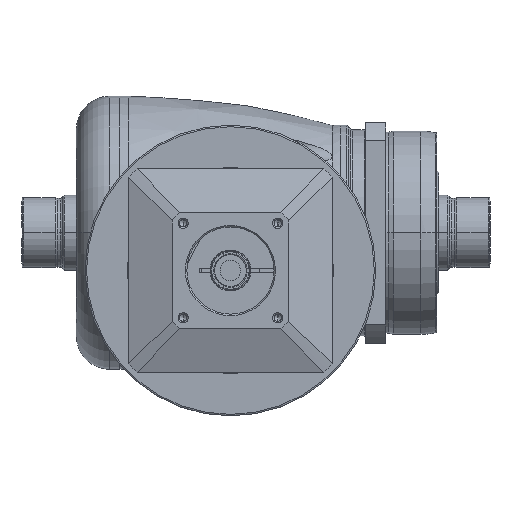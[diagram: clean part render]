
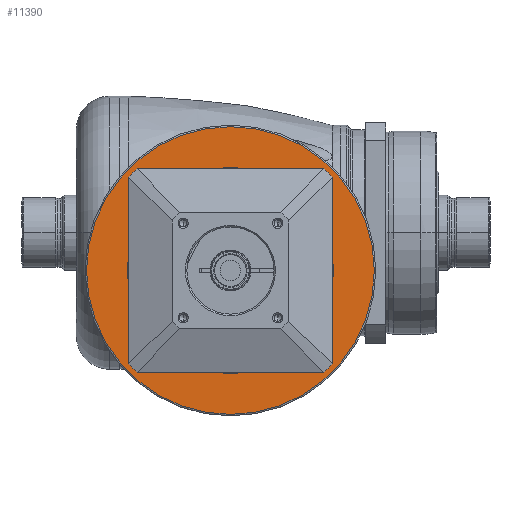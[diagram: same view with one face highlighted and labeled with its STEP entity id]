
A CAD part, front view. The second image highlights one B-rep face of the part: STEP entity #11390.
In plain terms, the highlighted planar face has unit normal (0, -1, 0) as drawn and (1, 0, 0) by its records, which use the part's own axes.
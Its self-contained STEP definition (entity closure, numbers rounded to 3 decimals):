
#10373=CARTESIAN_POINT('',(-9.,0.,0.));
#10374=DIRECTION('',(-1.,0.,0.));
#10375=DIRECTION('',(0.,-1.,0.));
#10376=AXIS2_PLACEMENT_3D('',#10373,#10374,#10375);
#10378=CARTESIAN_POINT('',(-9.,0.,0.));
#10379=DIRECTION('',(-1.,0.,0.));
#10380=DIRECTION('',(0.,1.,0.));
#10381=AXIS2_PLACEMENT_3D('',#10378,#10379,#10380);
#10383=CARTESIAN_POINT('',(-9.,0.,0.));
#10384=DIRECTION('',(-1.,0.,0.));
#10385=DIRECTION('',(0.,-1.,0.));
#10386=AXIS2_PLACEMENT_3D('',#10383,#10384,#10385);
#10388=CARTESIAN_POINT('',(-9.,0.,0.));
#10389=DIRECTION('',(-1.,0.,0.));
#10390=DIRECTION('',(0.,1.,0.));
#10391=AXIS2_PLACEMENT_3D('',#10388,#10389,#10390);
#10635=CARTESIAN_POINT('',(-9.,-49.5,0.));
#10636=CARTESIAN_POINT('',(-9.,49.5,0.));
#10637=VERTEX_POINT('',#10635);
#10638=VERTEX_POINT('',#10636);
#10693=CARTESIAN_POINT('',(-9.,-35.5,0.));
#10694=CARTESIAN_POINT('',(-9.,35.5,0.));
#10695=VERTEX_POINT('',#10693);
#10696=VERTEX_POINT('',#10694);
#11375=CARTESIAN_POINT('',(-9.,0.,0.));
#11376=DIRECTION('',(1.,0.,0.));
#11377=DIRECTION('',(0.,-1.,0.));
#11378=AXIS2_PLACEMENT_3D('',#11375,#11376,#11377);
#11379=PLANE('',#11378);
#11380=ORIENTED_EDGE('',*,*,#11307,.T.);
#11381=ORIENTED_EDGE('',*,*,#11292,.T.);
#11382=EDGE_LOOP('',(#11380,#11381));
#11383=FACE_OUTER_BOUND('',#11382,.F.);
#11385=ORIENTED_EDGE('',*,*,#11384,.F.);
#11387=ORIENTED_EDGE('',*,*,#11386,.F.);
#11388=EDGE_LOOP('',(#11385,#11387));
#11389=FACE_BOUND('',#11388,.F.);
#11390=ADVANCED_FACE('',(#11383,#11389),#11379,.T.);
#10377=CIRCLE('',#10376,35.5);
#10382=CIRCLE('',#10381,35.5);
#10387=CIRCLE('',#10386,49.5);
#10392=CIRCLE('',#10391,49.5);
#11292=EDGE_CURVE('',#10638,#10637,#10392,.T.);
#11307=EDGE_CURVE('',#10637,#10638,#10387,.T.);
#11384=EDGE_CURVE('',#10695,#10696,#10377,.T.);
#11386=EDGE_CURVE('',#10696,#10695,#10382,.T.);
